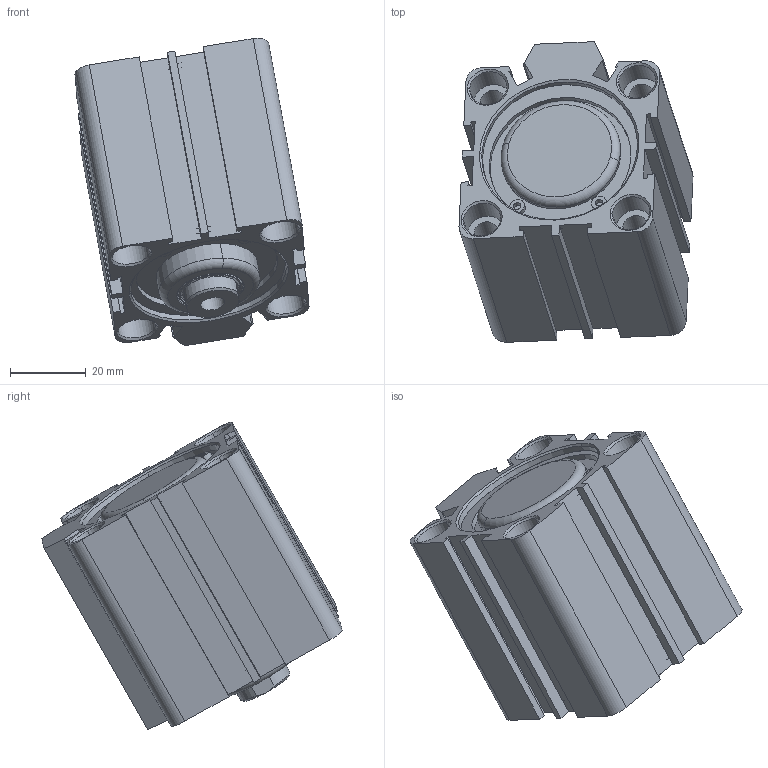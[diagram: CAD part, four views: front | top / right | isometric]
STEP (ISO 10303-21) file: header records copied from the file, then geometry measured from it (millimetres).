
FILE_DESCRIPTION (( 'STEP AP214' ), '1' );
FILE_NAME ('SDA_40_20_WEB.STEP', '2021-01-22T12:03:05', ( 'cagdas' ), ( '' ), 'SwSTEP 2.0', 'SolidWorks 2021', '' );
FILE_SCHEMA (( 'AUTOMOTIVE_DESIGN' ));
Length unit declared in the file: millimetre
Products named in the file (8): SDA_40_20_WEB; SDA40SEGMAN; SDA40ONKAPAK; SDA_40_BORU_WEB; SDA40PAPYUZUK; SDA40ARKAKAPAK; 16_MIL_WEB; SDA40BOGAZKECESI
Assembly tree (8 placements, depth 2):
  SDA_40_20_WEB
    SDA40ARKAKAPAK
    SDA40SEGMAN  x2
    SDA40ONKAPAK
    SDA40PAPYUZUK
    SDA40BOGAZKECESI
    SDA_40_BORU_WEB
    16_MIL_WEB
Bounding box: 62 x 79.59 x 81.48 mm (x, y, z)
Volume: 84510.5 mm3; surface area: 46746.8 mm2
Topology: 8 solids, 8 shells, 468 faces, 1166 edges, 752 vertices
Faces by surface type: plane 179, cylinder 128, bspline 85, cone 72, torus 4
Entity records: 19602 total; most frequent: CARTESIAN_POINT 7016, ORIENTED_EDGE 2236, DIRECTION 2010, EDGE_CURVE 1118, VERTEX_POINT 720, AXIS2_PLACEMENT_3D 698, VECTOR 614, LINE 614
